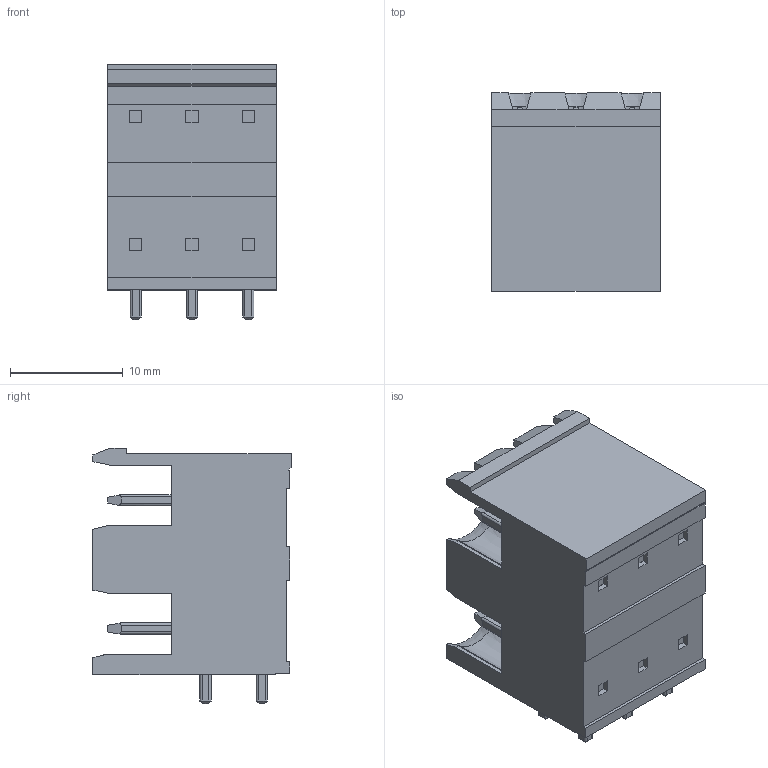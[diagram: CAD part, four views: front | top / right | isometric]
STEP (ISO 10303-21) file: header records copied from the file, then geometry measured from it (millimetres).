
FILE_DESCRIPTION((''),'2;1');
FILE_NAME('333','2019-04-12T',('zhenbing.lai'),(''),'CREO PARAMETRIC BY PTC INC, 2016260','CREO PARAMETRIC BY PTC INC, 2016260','');
FILE_SCHEMA(('CONFIG_CONTROL_DESIGN'));
Length unit declared in the file: millimetre
Products named in the file (1): 333
Bounding box: 15 x 17.6 x 22.7 mm (x, y, z)
Volume: 3532.9 mm3; surface area: 2664 mm2
Topology: 1 solids, 1 shells, 453 faces, 1248 edges, 812 vertices
Faces by surface type: plane 359, cylinder 82, cone 12
Entity records: 14623 total; most frequent: CARTESIAN_POINT 3296, ORIENTED_EDGE 2496, DIRECTION 2116, EDGE_CURVE 1248, VECTOR 922, LINE 922, VERTEX_POINT 812, AXIS2_PLACEMENT_3D 597
